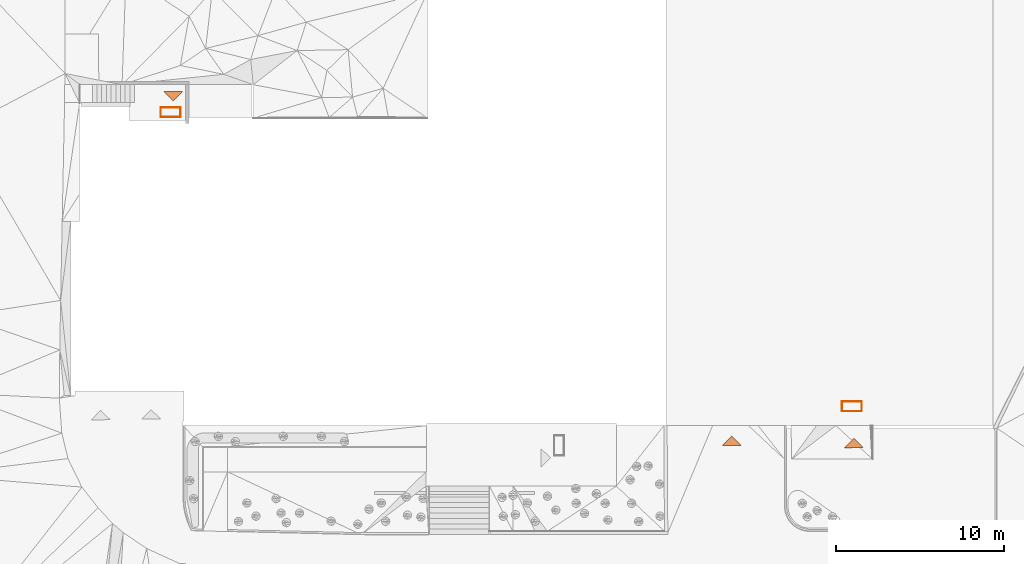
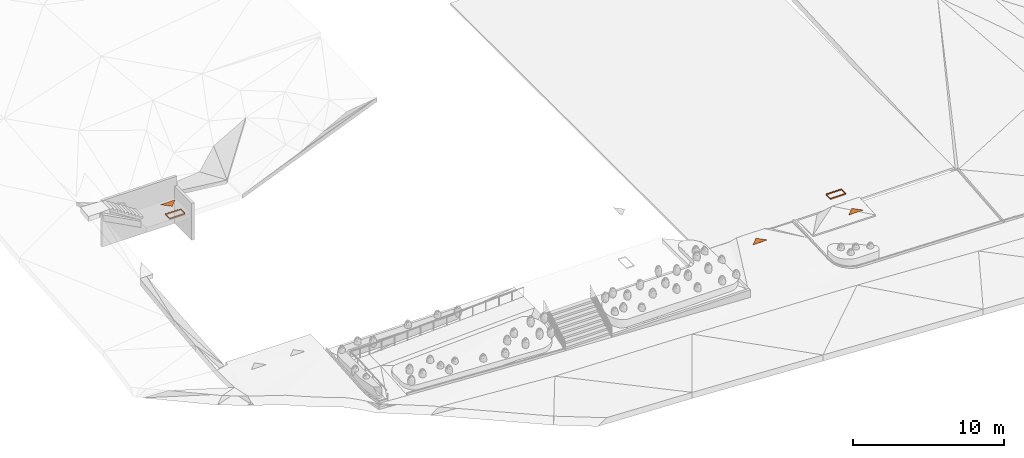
# One storey, part 23 of 23: 5 proxies.
"""IFC2X3 building model written with IfcOpenShell, lengths in metres."""

import ifcopenshell
import ifcopenshell.guid

model = None  # the IFC model being written
_history = None  # IfcOwnerHistory: only IFC2X3 demands one
_inside = {}  # id of a spatial element -> (the spatial element, [elements in it])
_under = {}  # id of a project, library or spatial element -> (it, [spatial elements below it])
_declared = {}  # id of a project -> (the project, [libraries it declares])
_typed = {}  # id of a type object -> (the type object, [elements of that type])
_made_of = {}  # id of a material, layer set ... -> (it, [elements and type objects made of it])


def new_model(schema):
    """Start an empty IFC model of exactly this schema.

    Asked for "IFC4X3", IfcOpenShell would pick the latest addendum, in which some entities
    have other attributes; the version numbers below select the first issue.
    IFC2X3 requires an IfcOwnerHistory on every rooted entity: one is made here for all.
    """
    global model, _history
    if schema == "IFC4X3":
        model = ifcopenshell.file(schema_version=(4, 3, 0, 0))
    else:
        model = ifcopenshell.file(schema=schema)
    _inside.clear()
    _under.clear()
    _declared.clear()
    _typed.clear()
    _made_of.clear()
    _history = None
    if model.schema == "IFC2X3":
        org = make("IfcOrganization", Name="unknown")
        user = make(
            "IfcPersonAndOrganization",
            ThePerson=make("IfcPerson", FamilyName="unknown"),
            TheOrganization=org,
        )
        app = make(
            "IfcApplication",
            ApplicationDeveloper=org,
            Version="unknown",
            ApplicationFullName="unknown",
            ApplicationIdentifier="unknown",
        )
        _history = make(
            "IfcOwnerHistory",
            OwningUser=user,
            OwningApplication=app,
            ChangeAction="ADDED",
            CreationDate=0,
        )
    return model


def make(cls, **values):
    """One entity of the class cls with the attributes given. An attribute that is None is left unset."""
    return model.create_entity(
        cls, **{name: value for name, value in values.items() if value is not None}
    )


def entity(cls, *values):
    """Any entity or typed value of the class cls, its attributes in the order of the schema. None: left unset."""
    e = model.create_entity(cls)
    for i, value in enumerate(values):
        if value is not None:
            e[i] = value
    return e


def rooted(cls, **values):
    """An entity with a GlobalId (a new one), such as an element, a storey or a relation."""
    return make(cls, GlobalId=ifcopenshell.guid.new(), OwnerHistory=_history, **values)


def si_unit(unit_type, name, prefix=None):
    """IfcSIUnit, for example si_unit("LENGTHUNIT", "METRE", prefix="MILLI")."""
    return make("IfcSIUnit", UnitType=unit_type, Prefix=prefix, Name=name)


def converted_unit(unit_type, name, factor, base, dimensions=None, offset=None):
    """IfcConversionBasedUnit, such as the inch: factor (a typed value) times the base unit."""
    return make(
        "IfcConversionBasedUnit"
        if offset is None
        else "IfcConversionBasedUnitWithOffset",
        ConversionOffset=offset,
        Dimensions=None
        if dimensions is None
        else entity("IfcDimensionalExponents", *dimensions),
        UnitType=unit_type,
        Name=name,
        ConversionFactor=make(
            "IfcMeasureWithUnit", ValueComponent=factor, UnitComponent=base
        ),
    )


def assignment(units):
    """IfcUnitAssignment: the units of a project."""
    return None if units is None else make("IfcUnitAssignment", Units=units)


def point(xyz):
    """IfcCartesianPoint."""
    return None if xyz is None else make("IfcCartesianPoint", Coordinates=xyz)


def direction(xyz):
    """IfcDirection."""
    return None if xyz is None else make("IfcDirection", DirectionRatios=xyz)


def frame(location, z_axis=None, x_axis=None):
    """IfcAxis2Placement3D, a coordinate frame: its origin and axes. An axis left out is left unset."""
    return make(
        "IfcAxis2Placement3D",
        Location=point(location),
        Axis=direction(z_axis),
        RefDirection=direction(x_axis),
    )


def origin():
    """The frame at (0, 0, 0) with its axes left unset."""
    return frame((0.0, 0.0, 0.0))


def place(relative_to, where):
    """IfcLocalPlacement: puts the frame where relative to a parent placement (None: the world)."""
    return make(
        "IfcLocalPlacement", PlacementRelTo=relative_to, RelativePlacement=where
    )


def context(
    kind, dimensions, precision=None, world=None, true_north=None, identifier=None
):
    """IfcGeometricRepresentationContext, for example the 3D "Model" context."""
    return make(
        "IfcGeometricRepresentationContext",
        ContextIdentifier=identifier,
        ContextType=kind,
        CoordinateSpaceDimension=dimensions,
        Precision=precision,
        WorldCoordinateSystem=world,
        TrueNorth=true_north,
    )


def subcontext(parent, identifier, kind, view, scale=None):
    """IfcGeometricRepresentationSubContext, for example "Body" below "Model"."""
    return make(
        "IfcGeometricRepresentationSubContext",
        ContextIdentifier=identifier,
        ContextType=kind,
        ParentContext=parent,
        TargetScale=scale,
        TargetView=view,
    )


def project(units=None, contexts=None):
    """IfcProject with its units and contexts."""
    return rooted(
        "IfcProject",
        Name="project",
        RepresentationContexts=contexts,
        UnitsInContext=assignment(units),
    )


def spatial(cls, under=None, at=None, **own):
    """A site, building, storey or space (cls), placed at a placement, below another one or the project."""
    s = rooted(cls, ObjectPlacement=at, **own)
    if under is not None:
        _under.setdefault(under.id(), (under, []))[1].append(s)
    return s


def polyline(points):
    """IfcPolyline through the points."""
    return make("IfcPolyline", Points=[point(p) for p in points])


def outline(outer, holes=None, kind="AREA"):
    """IfcArbitraryClosedProfileDef: a profile drawn as a closed curve; with holes, ...WithVoids."""
    if holes is None:
        return make("IfcArbitraryClosedProfileDef", ProfileType=kind, OuterCurve=outer)
    return make(
        "IfcArbitraryProfileDefWithVoids",
        ProfileType=kind,
        OuterCurve=outer,
        InnerCurves=holes,
    )


def extrude(swept, where, along, depth):
    """IfcExtrudedAreaSolid: the profile swept, set in the frame where, extruded along a direction by depth."""
    return make(
        "IfcExtrudedAreaSolid",
        SweptArea=swept,
        Position=where,
        ExtrudedDirection=direction(along),
        Depth=depth,
    )


def shape(context_of_items, identifier, shape_type, items):
    """IfcShapeRepresentation: the items that make up one representation, for example the "Body"."""
    return make(
        "IfcShapeRepresentation",
        ContextOfItems=context_of_items,
        RepresentationIdentifier=identifier,
        RepresentationType=shape_type,
        Items=items,
    )


def source(mapping_origin, context_of_items, identifier, shape_type, items):
    """IfcRepresentationMap: a shape defined once, which mapped items show again and again."""
    return make(
        "IfcRepresentationMap",
        MappingOrigin=mapping_origin,
        MappedRepresentation=shape(context_of_items, identifier, shape_type, items),
    )


def transform(
    local_origin,
    x_axis=None,
    y_axis=None,
    z_axis=None,
    scale=None,
    scale2=None,
    scale3=None,
    uniform=True,
):
    """IfcCartesianTransformationOperator3D, or its non-uniform kind. x_axis, y_axis, z_axis: its Axis1, 2, 3."""
    if uniform:
        return make(
            "IfcCartesianTransformationOperator3D",
            Axis1=direction(x_axis),
            Axis2=direction(y_axis),
            LocalOrigin=point(local_origin),
            Scale=scale,
            Axis3=direction(z_axis),
        )
    return make(
        "IfcCartesianTransformationOperator3DnonUniform",
        Axis1=direction(x_axis),
        Axis2=direction(y_axis),
        LocalOrigin=point(local_origin),
        Scale=scale,
        Axis3=direction(z_axis),
        Scale2=scale2,
        Scale3=scale3,
    )


def mapped(mapping_source, mapping_target):
    """IfcMappedItem: shows the shape of a source again, moved by a transform."""
    return make(
        "IfcMappedItem", MappingSource=mapping_source, MappingTarget=mapping_target
    )


def material(Name=None, Category=None):
    """IfcMaterial."""
    return make("IfcMaterial", Name=Name, Category=Category)


def made_of(thing, what):
    """Note that an element or type object is made of a material, layer set ...; save() writes the relation."""
    if what is not None:
        _made_of.setdefault(what.id(), (what, []))[1].append(thing)
    return thing


def type_object(cls, material=None, **own):
    """A type object (cls), such as IfcWallType, which elements share."""
    return made_of(rooted(cls, **own), material)


def type_shapes(of_type, sources):
    """Give a type object the sources (RepresentationMaps) that its elements show as mapped items."""
    of_type.RepresentationMaps = sources


def element(
    cls,
    number,
    at=None,
    inside=None,
    cuts=None,
    type_object=None,
    material=None,
    context=None,
    identifier="Body",
    shape_type=None,
    held_by="IfcProductDefinitionShape",
    body=None,
    shapes=None,
    **own,
):
    """One element of the class cls, such as IfcWall. Its Tag is "e" and its number.

    at: its placement. inside: the storey or other place that contains it. cuts: it is an
    opening in that element (IfcRelVoidsElement). A single representation is given by context,
    identifier, shape_type and body (its items); several are given by shapes. held_by: the class
    of the entity that holds the representations. save() writes the other relations.
    """
    e = rooted(cls, Tag="e%d" % number, ObjectPlacement=at, **own)
    if body is not None:
        shapes = [shape(context, identifier, shape_type, body)]
    if shapes is not None:
        e.Representation = make(held_by, Representations=shapes)
    if inside is not None:
        _inside.setdefault(inside.id(), (inside, []))[1].append(e)
    if cuts is not None:
        rooted(
            "IfcRelVoidsElement", RelatingBuildingElement=cuts, RelatedOpeningElement=e
        )
    if type_object is not None:
        _typed.setdefault(type_object.id(), (type_object, []))[1].append(e)
    return made_of(e, material)


def aggregate(whole, parts):
    """IfcRelAggregates: a whole, such as a stair, and the parts it consists of."""
    return rooted("IfcRelAggregates", RelatingObject=whole, RelatedObjects=parts)


def save(model, path):
    """Write the relations noted so far, then the file.

    IfcRelAggregates (storeys below a building ...), IfcRelContainedInSpatialStructure (elements
    in a storey), IfcRelDefinesByType, IfcRelAssociatesMaterial and IfcRelDeclares: one each for
    every whole, place, type object, material and project.
    """
    for whole, parts in _under.values():
        aggregate(whole, parts)
    for where, things in _inside.values():
        rooted(
            "IfcRelContainedInSpatialStructure",
            RelatedElements=things,
            RelatingStructure=where,
        )
    for kind, things in _typed.values():
        rooted("IfcRelDefinesByType", RelatedObjects=things, RelatingType=kind)
    for what, things in _made_of.values():
        rooted("IfcRelAssociatesMaterial", RelatedObjects=things, RelatingMaterial=what)
    for by, libraries in _declared.values():
        rooted("IfcRelDeclares", RelatingContext=by, RelatedDefinitions=libraries)
    model.write(path)


model = new_model("IFC2X3")

# Units and contexts
model_context = context("Model", 3, precision=1e-05, world=origin(), true_north=direction((0.7716245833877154, 0.6360782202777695)))
body_context = subcontext(model_context, "Body", "Model", "MODEL_VIEW")
ifc_project = project(units=[si_unit("LENGTHUNIT", "METRE"), converted_unit("PLANEANGLEUNIT", "DEGREE", entity("IfcPlaneAngleMeasure", 0.017453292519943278), si_unit("PLANEANGLEUNIT", "RADIAN"), dimensions=[0, 0, 0, 0, 0, 0, 0]), si_unit("AREAUNIT", "SQUARE_METRE")], contexts=[model_context])

# Site, building, storey
site_placement = place(None, origin())
site = spatial("IfcSite", under=ifc_project, at=site_placement, Name="Default", CompositionType="ELEMENT")
building_placement = place(site_placement, origin())
building = spatial("IfcBuilding", under=site, at=building_placement, Name="<Building Name>", CompositionType="ELEMENT")
storey_placement = place(building_placement, origin())
storey = spatial("IfcBuildingStorey", under=building, at=storey_placement, Name="00 - HAV", CompositionType="ELEMENT", Elevation=0.0)

# Proxies
ifc_material_1 = material(Name="Entrépil")
building_element_proxy_type_1 = type_object("IfcBuildingElementProxyType", Name="011_Entrépil_3D:Hovedentré", PredefinedType="NOTDEFINED", material=ifc_material_1)
shared_shape_1 = source(origin(), body_context, "Body", "SweptSolid", [
    extrude(outline(polyline([(-0.2666666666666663, -0.2666666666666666), (0.5333333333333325, -0.2666666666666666), (-0.2666666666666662, 0.5333333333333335), (-0.2666666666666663, -0.2666666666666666)])), frame((0.0, -0.377123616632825, 0.0), z_axis=(0.0, 0.0, 1.0), x_axis=(-0.7071067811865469, -0.7071067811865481, 0.0)), (0.0, 0.0, 1.0), 0.003),
])
type_shapes(building_element_proxy_type_1, [shared_shape_1])
for number, where, z_axis, x_axis, name in (
    (1, (262.4153167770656, 52.56781949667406, 31.08958307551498), (0.0, 0.0, 1.0), (0.999903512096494, 0.013891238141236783, 0.0), "011_Entrépil_3D:Hovedentré"),
    (2, (269.6889349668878, 52.44041011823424, 31.038533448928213), (0.0, 0.0, 1.0), (0.999903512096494, 0.013891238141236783, 0.0), "011_Entrépil_3D:Hovedentré"),
    (3, (229.19179403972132, 72.51644752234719, 33.2), (0.0, 0.0, 1.0), (-0.9999035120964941, -0.013891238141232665, 0.0), "011_Entrépil_3D:Hovedentré"),
):
    element("IfcBuildingElementProxy", number, at=place(storey_placement, frame(where, z_axis=z_axis, x_axis=x_axis)), inside=storey, type_object=building_element_proxy_type_1, material=ifc_material_1, Name=name, ObjectType="011_Entrépil_3D:Hovedentré", context=body_context, shape_type="MappedRepresentation", body=[
        mapped(shared_shape_1, transform((0.0, 0.0, 0.0), scale=1.0)),
    ])
ifc_material_2 = material(Name="A_Default_Building_Component")
building_element_proxy_type_2 = type_object("IfcBuildingElementProxyType", Name="rist:rist", PredefinedType="NOTDEFINED", material=ifc_material_2)
shared_shape_2 = source(origin(), body_context, "Body", "SweptSolid", [
    extrude(outline(polyline([(-0.300000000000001, -0.6000000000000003), (0.2999999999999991, -0.6000000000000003), (0.30000000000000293, 0.5999999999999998), (-0.300000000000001, 0.6000000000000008), (-0.300000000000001, -0.6000000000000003)]), holes=[polyline([(0.28000000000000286, 0.5799999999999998), (0.27999999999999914, -0.5800000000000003), (-0.28000000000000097, -0.5800000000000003), (-0.28000000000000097, 0.5800000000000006), (0.28000000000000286, 0.5799999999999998)])]), frame((0.5999999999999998, 0.300000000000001, -0.1), z_axis=(0.0, 0.0, 1.0), x_axis=(0.0, 1.0, 0.0)), (0.0, 0.0, 1.0), 0.1),
])
type_shapes(building_element_proxy_type_2, [shared_shape_2])
for number, where in (
    (4, (268.96849470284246, 54.032646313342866, 31.139999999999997)),
    (5, (228.425760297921, 71.54404723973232, 33.10000000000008)),
):
    element("IfcBuildingElementProxy", number, at=place(storey_placement, frame(where)), inside=storey, type_object=building_element_proxy_type_2, material=ifc_material_2, Name="rist:rist", ObjectType="rist:rist", context=body_context, shape_type="MappedRepresentation", body=[
        mapped(shared_shape_2, transform((0.0, 0.0, 0.0), scale=1.0)),
    ])

save(model, "model.ifc")
